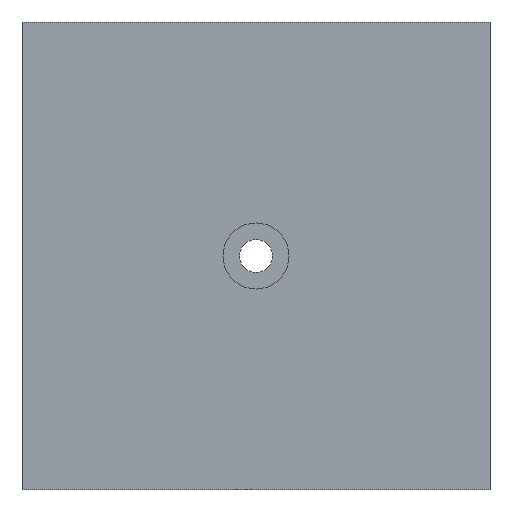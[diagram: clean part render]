
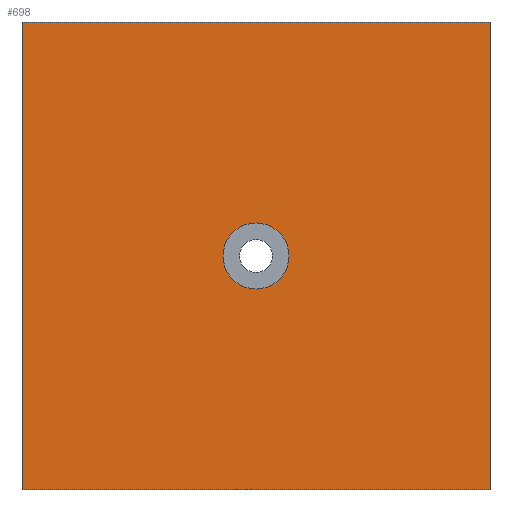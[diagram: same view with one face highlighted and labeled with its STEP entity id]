
A CAD part, front view. The second image highlights one B-rep face of the part: STEP entity #698.
In plain terms, the highlighted planar face has unit normal (0, -1, 0).
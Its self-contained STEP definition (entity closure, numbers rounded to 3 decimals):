
#1=DIRECTION('',(0.,0.,1.));
#2=VECTOR('',#1,49.5);
#3=CARTESIAN_POINT('',(-24.8,0.,-24.75));
#4=LINE('',#3,#2);
#5=DIRECTION('',(1.,0.,0.));
#6=VECTOR('',#5,49.6);
#7=CARTESIAN_POINT('',(-24.8,0.,24.75));
#8=LINE('',#7,#6);
#9=DIRECTION('',(0.,0.,-1.));
#10=VECTOR('',#9,49.5);
#11=CARTESIAN_POINT('',(24.8,0.,24.75));
#12=LINE('',#11,#10);
#13=DIRECTION('',(-1.,0.,0.));
#14=VECTOR('',#13,49.6);
#15=CARTESIAN_POINT('',(24.8,0.,-24.75));
#16=LINE('',#15,#14);
#17=CARTESIAN_POINT('',(0.,0.,0.));
#18=DIRECTION('',(0.,-1.,0.));
#19=DIRECTION('',(1.,0.,0.));
#20=AXIS2_PLACEMENT_3D('',#17,#18,#19);
#22=CARTESIAN_POINT('',(0.,0.,0.));
#23=DIRECTION('',(0.,-1.,0.));
#24=DIRECTION('',(-1.,0.,0.));
#25=AXIS2_PLACEMENT_3D('',#22,#23,#24);
#525=CARTESIAN_POINT('',(-24.8,0.,-24.75));
#526=CARTESIAN_POINT('',(-24.8,0.,24.75));
#527=VERTEX_POINT('',#525);
#528=VERTEX_POINT('',#526);
#529=CARTESIAN_POINT('',(24.8,0.,24.75));
#530=VERTEX_POINT('',#529);
#531=CARTESIAN_POINT('',(24.8,0.,-24.75));
#532=VERTEX_POINT('',#531);
#665=CARTESIAN_POINT('',(3.5,0.,0.));
#666=CARTESIAN_POINT('',(-3.5,0.,0.));
#667=VERTEX_POINT('',#665);
#668=VERTEX_POINT('',#666);
#677=CARTESIAN_POINT('',(0.,0.,0.));
#678=DIRECTION('',(0.,1.,0.));
#679=DIRECTION('',(1.,0.,0.));
#680=AXIS2_PLACEMENT_3D('',#677,#678,#679);
#681=PLANE('',#680);
#683=ORIENTED_EDGE('',*,*,#682,.T.);
#685=ORIENTED_EDGE('',*,*,#684,.T.);
#687=ORIENTED_EDGE('',*,*,#686,.T.);
#689=ORIENTED_EDGE('',*,*,#688,.T.);
#690=EDGE_LOOP('',(#683,#685,#687,#689));
#691=FACE_OUTER_BOUND('',#690,.F.);
#693=ORIENTED_EDGE('',*,*,#692,.T.);
#695=ORIENTED_EDGE('',*,*,#694,.T.);
#696=EDGE_LOOP('',(#693,#695));
#697=FACE_BOUND('',#696,.F.);
#698=ADVANCED_FACE('',(#691,#697),#681,.F.);
#21=CIRCLE('',#20,3.5);
#26=CIRCLE('',#25,3.5);
#682=EDGE_CURVE('',#527,#528,#4,.T.);
#684=EDGE_CURVE('',#528,#530,#8,.T.);
#686=EDGE_CURVE('',#530,#532,#12,.T.);
#688=EDGE_CURVE('',#532,#527,#16,.T.);
#692=EDGE_CURVE('',#667,#668,#21,.T.);
#694=EDGE_CURVE('',#668,#667,#26,.T.);
